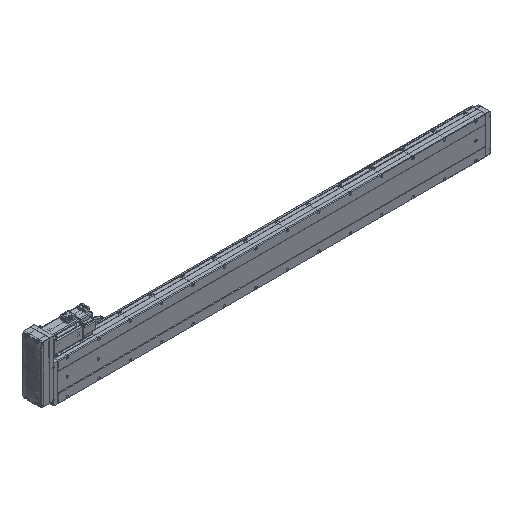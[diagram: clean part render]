
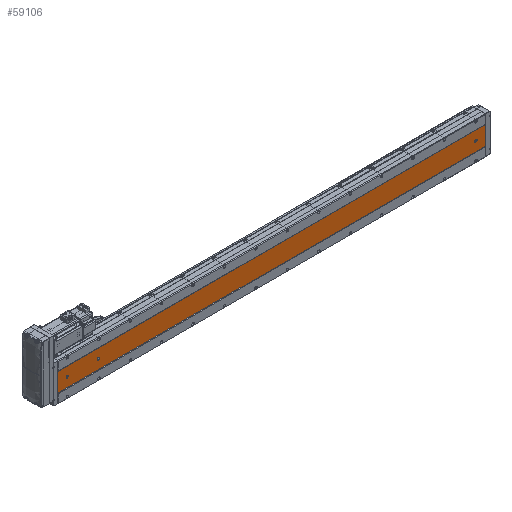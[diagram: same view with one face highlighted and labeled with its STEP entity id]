
A CAD part, isometric view. The second image highlights one B-rep face of the part: STEP entity #59106.
In plain terms, the highlighted planar face has unit normal (0, -1, 0).
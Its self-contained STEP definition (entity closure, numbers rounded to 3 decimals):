
#302 = CIRCLE ( 'NONE', #28970, 3.5 ) ;
#3094 = AXIS2_PLACEMENT_3D ( 'NONE', #27195, #54295, #52791 ) ;
#3412 = ORIENTED_EDGE ( 'NONE', *, *, #82805, .T. ) ;
#3464 = CARTESIAN_POINT ( 'NONE',  ( -36.392, -52.848, 30. ) ) ;
#3678 = VERTEX_POINT ( 'NONE', #88527 ) ;
#3975 = VERTEX_POINT ( 'NONE', #75310 ) ;
#5741 = DIRECTION ( 'NONE',  ( 0., 0., 1. ) ) ;
#6447 = LINE ( 'NONE', #21420, #102113 ) ;
#10026 = DIRECTION ( 'NONE',  ( 0., 0., 1. ) ) ;
#10473 = CARTESIAN_POINT ( 'NONE',  ( -39.892, -52.848, 1334.5 ) ) ;
#12333 = CARTESIAN_POINT ( 'NONE',  ( -9.892, -52.848, 1361. ) ) ;
#12700 = EDGE_CURVE ( 'NONE', #111065, #3678, #302, .T. ) ;
#12896 = DIRECTION ( 'NONE',  ( 0., 0., -1. ) ) ;
#14344 = ORIENTED_EDGE ( 'NONE', *, *, #19638, .F. ) ;
#16102 = VECTOR ( 'NONE', #26512, 1000. ) ;
#16925 = DIRECTION ( 'NONE',  ( 0., 1., 0. ) ) ;
#17364 = PLANE ( 'NONE',  #20479 ) ;
#17635 = EDGE_CURVE ( 'NONE', #58440, #21517, #81948, .T. ) ;
#18470 = DIRECTION ( 'NONE',  ( 0., 0., -1. ) ) ;
#18835 = VECTOR ( 'NONE', #76554, 1000. ) ;
#19394 = DIRECTION ( 'NONE',  ( 0., 0., 1. ) ) ;
#19572 = EDGE_LOOP ( 'NONE', ( #49408, #3412 ) ) ;
#19638 = EDGE_CURVE ( 'NONE', #81707, #38432, #76194, .T. ) ;
#20479 = AXIS2_PLACEMENT_3D ( 'NONE', #54173, #44503, #10026 ) ;
#20861 = DIRECTION ( 'NONE',  ( 0., 0., 1. ) ) ;
#21420 = CARTESIAN_POINT ( 'NONE',  ( -36.392, -52.848, 1361. ) ) ;
#21517 = VERTEX_POINT ( 'NONE', #62228 ) ;
#21560 = ORIENTED_EDGE ( 'NONE', *, *, #44147, .F. ) ;
#22299 = CARTESIAN_POINT ( 'NONE',  ( -39.892, -52.848, 1231. ) ) ;
#23463 = ORIENTED_EDGE ( 'NONE', *, *, #29491, .T. ) ;
#23923 = DIRECTION ( 'NONE',  ( 0., 1., 0. ) ) ;
#25204 = VERTEX_POINT ( 'NONE', #86113 ) ;
#25929 = DIRECTION ( 'NONE',  ( 0., 0., 1. ) ) ;
#26512 = DIRECTION ( 'NONE',  ( 1., 0., 0. ) ) ;
#27195 = CARTESIAN_POINT ( 'NONE',  ( -39.892, -52.848, 1231. ) ) ;
#28970 = AXIS2_PLACEMENT_3D ( 'NONE', #101788, #75472, #111484 ) ;
#29491 = EDGE_CURVE ( 'NONE', #3975, #111065, #6447, .T. ) ;
#30059 = EDGE_CURVE ( 'NONE', #105881, #108624, #104777, .T. ) ;
#31409 = CIRCLE ( 'NONE', #49666, 3.5 ) ;
#32456 = CARTESIAN_POINT ( 'NONE',  ( -39.892, -52.848, 30. ) ) ;
#34414 = LINE ( 'NONE', #76533, #78923 ) ;
#35084 = ORIENTED_EDGE ( 'NONE', *, *, #74043, .T. ) ;
#36020 = EDGE_LOOP ( 'NONE', ( #72613, #48143, #23463, #43438, #35084 ) ) ;
#38432 = VERTEX_POINT ( 'NONE', #90465 ) ;
#40467 = CARTESIAN_POINT ( 'NONE',  ( -39.892, -52.848, 1227.5 ) ) ;
#43438 = ORIENTED_EDGE ( 'NONE', *, *, #12700, .T. ) ;
#43905 = AXIS2_PLACEMENT_3D ( 'NONE', #32456, #23923, #5741 ) ;
#44108 = CARTESIAN_POINT ( 'NONE',  ( -9.892, -52.848, 1361. ) ) ;
#44147 = EDGE_CURVE ( 'NONE', #25204, #81707, #63271, .T. ) ;
#44503 = DIRECTION ( 'NONE',  ( 0., 1., 0. ) ) ;
#45448 = CIRCLE ( 'NONE', #3094, 3.5 ) ;
#48143 = ORIENTED_EDGE ( 'NONE', *, *, #65723, .T. ) ;
#48571 = CIRCLE ( 'NONE', #82064, 3.5 ) ;
#49408 = ORIENTED_EDGE ( 'NONE', *, *, #17635, .T. ) ;
#49666 = AXIS2_PLACEMENT_3D ( 'NONE', #55724, #101135, #20861 ) ;
#50163 = CARTESIAN_POINT ( 'NONE',  ( -43.392, -52.848, 32. ) ) ;
#52791 = DIRECTION ( 'NONE',  ( 0., 0., 1. ) ) ;
#54173 = CARTESIAN_POINT ( 'NONE',  ( -69.892, -52.848, 1361. ) ) ;
#54295 = DIRECTION ( 'NONE',  ( 0., 1., 0. ) ) ;
#55724 = CARTESIAN_POINT ( 'NONE',  ( -39.892, -52.848, 1331. ) ) ;
#58210 = ORIENTED_EDGE ( 'NONE', *, *, #30059, .T. ) ;
#58440 = VERTEX_POINT ( 'NONE', #40467 ) ;
#59106 = ADVANCED_FACE ( 'NONE', ( #73226, #76042, #78827, #74581 ), #17364, .F. ) ;
#60291 = CARTESIAN_POINT ( 'NONE',  ( -69.892, -52.848, 1361. ) ) ;
#62228 = CARTESIAN_POINT ( 'NONE',  ( -39.892, -52.848, 1234.5 ) ) ;
#63271 = LINE ( 'NONE', #60291, #16102 ) ;
#65022 = VECTOR ( 'NONE', #18470, 1000. ) ;
#65723 = EDGE_CURVE ( 'NONE', #103796, #3975, #48571, .T. ) ;
#66755 = EDGE_CURVE ( 'NONE', #71637, #38432, #34414, .T. ) ;
#67341 = CIRCLE ( 'NONE', #43905, 3.5 ) ;
#70188 = DIRECTION ( 'NONE',  ( 0., 1., 0. ) ) ;
#70809 = AXIS2_PLACEMENT_3D ( 'NONE', #86784, #16925, #113527 ) ;
#71166 = CARTESIAN_POINT ( 'NONE',  ( -39.892, -52.848, 1327.5 ) ) ;
#71637 = VERTEX_POINT ( 'NONE', #76407 ) ;
#72586 = CARTESIAN_POINT ( 'NONE',  ( -43.392, -52.848, 1361. ) ) ;
#72613 = ORIENTED_EDGE ( 'NONE', *, *, #96477, .T. ) ;
#73226 = FACE_BOUND ( 'NONE', #36020, .T. ) ;
#73910 = CARTESIAN_POINT ( 'NONE',  ( -43.392, -52.848, 30. ) ) ;
#74043 = EDGE_CURVE ( 'NONE', #3678, #80485, #67341, .T. ) ;
#74581 = FACE_OUTER_BOUND ( 'NONE', #97129, .T. ) ;
#75310 = CARTESIAN_POINT ( 'NONE',  ( -36.392, -52.848, 32. ) ) ;
#75472 = DIRECTION ( 'NONE',  ( 0., 1., 0. ) ) ;
#76042 = FACE_BOUND ( 'NONE', #19572, .T. ) ;
#76194 = LINE ( 'NONE', #44108, #65022 ) ;
#76407 = CARTESIAN_POINT ( 'NONE',  ( -69.892, -52.848, 0. ) ) ;
#76533 = CARTESIAN_POINT ( 'NONE',  ( -69.892, -52.848, 0. ) ) ;
#76554 = DIRECTION ( 'NONE',  ( 0., 0., -1. ) ) ;
#77819 = AXIS2_PLACEMENT_3D ( 'NONE', #22299, #111489, #92875 ) ;
#78827 = FACE_BOUND ( 'NONE', #102110, .T. ) ;
#78923 = VECTOR ( 'NONE', #83921, 1000. ) ;
#80485 = VERTEX_POINT ( 'NONE', #73910 ) ;
#81707 = VERTEX_POINT ( 'NONE', #12333 ) ;
#81948 = CIRCLE ( 'NONE', #77819, 3.5 ) ;
#82064 = AXIS2_PLACEMENT_3D ( 'NONE', #96937, #70188, #25929 ) ;
#82805 = EDGE_CURVE ( 'NONE', #21517, #58440, #45448, .T. ) ;
#83921 = DIRECTION ( 'NONE',  ( 1., 0., 0. ) ) ;
#84716 = CARTESIAN_POINT ( 'NONE',  ( -69.892, -52.848, 1361. ) ) ;
#86113 = CARTESIAN_POINT ( 'NONE',  ( -69.892, -52.848, 1361. ) ) ;
#86464 = EDGE_CURVE ( 'NONE', #25204, #71637, #95224, .T. ) ;
#86784 = CARTESIAN_POINT ( 'NONE',  ( -39.892, -52.848, 1331. ) ) ;
#88527 = CARTESIAN_POINT ( 'NONE',  ( -39.892, -52.848, 26.5 ) ) ;
#90465 = CARTESIAN_POINT ( 'NONE',  ( -9.892, -52.848, 0. ) ) ;
#92875 = DIRECTION ( 'NONE',  ( 0., 0., 1. ) ) ;
#95224 = LINE ( 'NONE', #84716, #18835 ) ;
#96477 = EDGE_CURVE ( 'NONE', #80485, #103796, #107705, .T. ) ;
#96937 = CARTESIAN_POINT ( 'NONE',  ( -39.892, -52.848, 32. ) ) ;
#97129 = EDGE_LOOP ( 'NONE', ( #113012, #14344, #21560, #112860 ) ) ;
#98954 = ORIENTED_EDGE ( 'NONE', *, *, #114606, .T. ) ;
#101135 = DIRECTION ( 'NONE',  ( 0., 1., 0. ) ) ;
#101788 = CARTESIAN_POINT ( 'NONE',  ( -39.892, -52.848, 30. ) ) ;
#102110 = EDGE_LOOP ( 'NONE', ( #98954, #58210 ) ) ;
#102113 = VECTOR ( 'NONE', #12896, 1000. ) ;
#103796 = VERTEX_POINT ( 'NONE', #50163 ) ;
#104777 = CIRCLE ( 'NONE', #70809, 3.5 ) ;
#104926 = VECTOR ( 'NONE', #19394, 1000. ) ;
#105881 = VERTEX_POINT ( 'NONE', #10473 ) ;
#107705 = LINE ( 'NONE', #72586, #104926 ) ;
#108624 = VERTEX_POINT ( 'NONE', #71166 ) ;
#111065 = VERTEX_POINT ( 'NONE', #3464 ) ;
#111484 = DIRECTION ( 'NONE',  ( 0., 0., 1. ) ) ;
#111489 = DIRECTION ( 'NONE',  ( 0., 1., 0. ) ) ;
#112860 = ORIENTED_EDGE ( 'NONE', *, *, #86464, .T. ) ;
#113012 = ORIENTED_EDGE ( 'NONE', *, *, #66755, .T. ) ;
#113527 = DIRECTION ( 'NONE',  ( 0., 0., 1. ) ) ;
#114606 = EDGE_CURVE ( 'NONE', #108624, #105881, #31409, .T. ) ;
